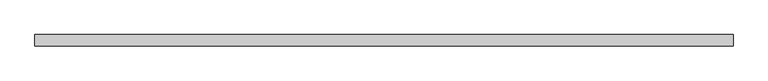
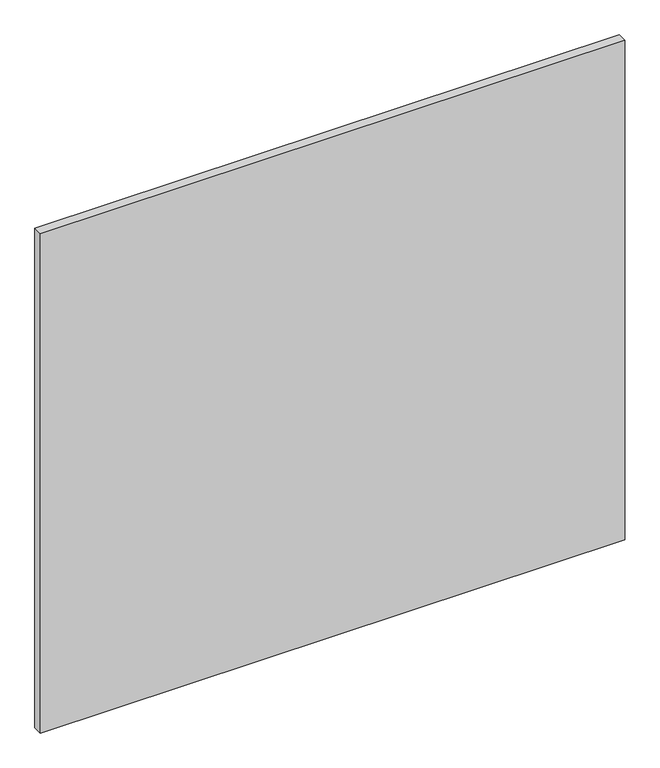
"""IFC4 building model written with IfcOpenShell, lengths in millimetres: plate geometry, Системная панель : ADSK_Cтеклопакет_25 мм."""

from ifc_helpers import new_model, si_unit, origin, origin_with_axes, place, context, project, spatial, polyline, outline, extrude, source, transform, mapped, element, save


def plate_c80c347d(model_context):
    return source(origin(), model_context, "Body", "SweptSolid", [
        extrude(outline(polyline([(775.0227682, -12.5), (-775.0227682, -12.5), (-775.0227682, 12.5), (775.0227682, 12.5), (775.0227682, -12.5)])), origin_with_axes(), (0.0, 0.0, 1.0), 1400.0),
    ])


if __name__ == "__main__":
    model = new_model("IFC4")
    model_context = context("Model", 3, world=origin())
    ifc_project = project(units=[si_unit("LENGTHUNIT", "METRE", prefix="MILLI")], contexts=[model_context])
    site = spatial("IfcSite", under=ifc_project)
    building = spatial("IfcBuilding", under=site)
    placement = place(None, origin())
    plate_shape = plate_c80c347d(model_context)
    element("IfcPlate", 1, ObjectType="Системная панель : ADSK_Cтеклопакет_25 мм", at=placement, inside=building, context=model_context, shape_type="MappedRepresentation", body=[
        mapped(plate_shape, transform((0.0, 0.0, 0.0), x_axis=(1.0, 0.0, 0.0), y_axis=(0.0, 1.0, 0.0), z_axis=(0.0, 0.0, 1.0))),
    ])
    save(model, "model.ifc")
